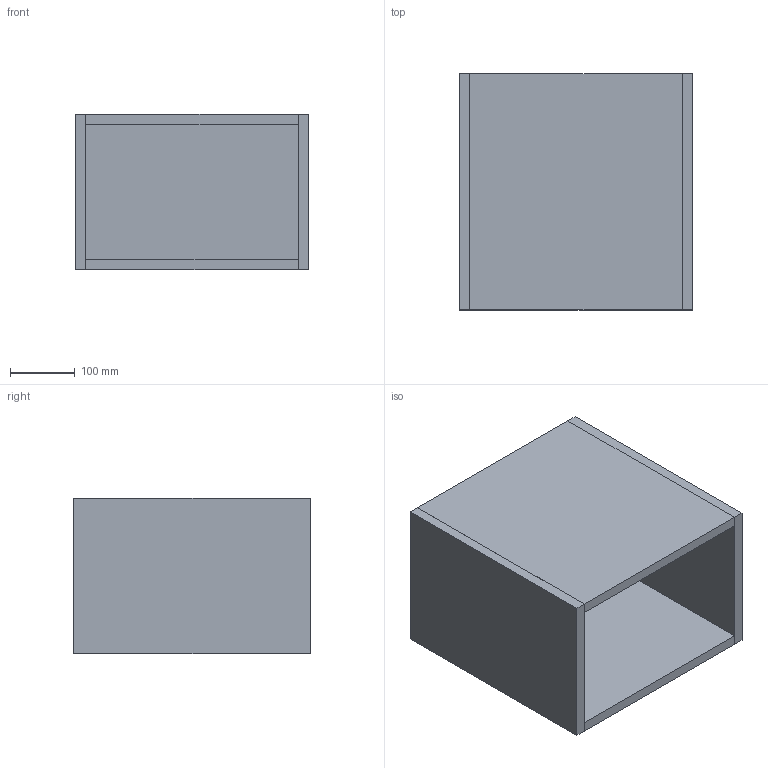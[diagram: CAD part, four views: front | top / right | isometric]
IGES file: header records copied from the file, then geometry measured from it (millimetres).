
Start section: Data from Parasolid IGES Translator 19.0.9, Copyright(c) 2006 Siemens PL M Software. All Rights Reserved.
Global section: file name: noorth-SI-H 24 D 38,8 W 36_8263.igs; native system: By Siemens PLM Incorporated; preprocessor: XPlus GENERIC/IGES 19.0.9; author: Noname; organization: Noname; date: 20200530.105146; units: metre
Bounding box: 360.01 x 364.06 x 240 mm (x, y, z)
Volume: 6813231.6 mm3; surface area: 1049786.3 mm2
Topology: 5 solids, 5 shells, 30 faces, 60 edges, 40 vertices
Faces by surface type: plane 30
